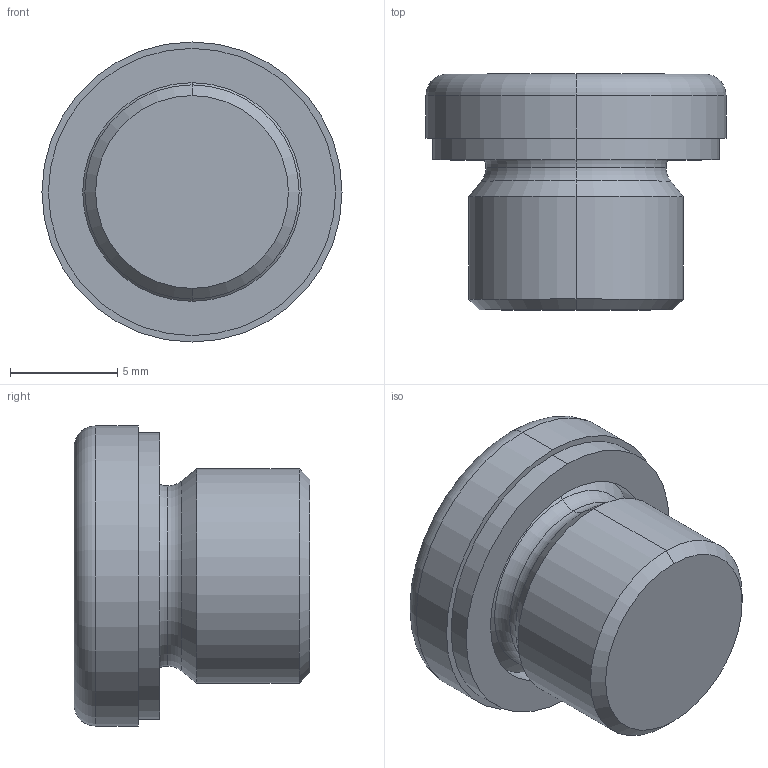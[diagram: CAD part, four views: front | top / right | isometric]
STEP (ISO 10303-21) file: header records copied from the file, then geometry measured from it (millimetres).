
FILE_DESCRIPTION (( 'STEP AP214' ), '1' );
FILE_NAME ('908-A4-M10x1-AA.step', '2024-12-19T09:18:28', ( '' ), ( '' ), 'SwSTEP 2.0', 'SolidWorks 2022', '' );
FILE_SCHEMA (( 'AUTOMOTIVE_DESIGN' ));
Length unit declared in the file: millimetre
Products named in the file (1): 908-A4-M10x1-AA
Bounding box: 14 x 11 x 14 mm (x, y, z)
Volume: 990.4 mm3; surface area: 825.7 mm2
Topology: 1 solids, 1 shells, 31 faces, 64 edges, 38 vertices
Faces by surface type: plane 11, cylinder 8, torus 6, cone 6
Entity records: 929 total; most frequent: DIRECTION 160, CARTESIAN_POINT 134, ORIENTED_EDGE 128, AXIS2_PLACEMENT_3D 64, EDGE_CURVE 64, VERTEX_POINT 38, EDGE_LOOP 34, CIRCLE 32
